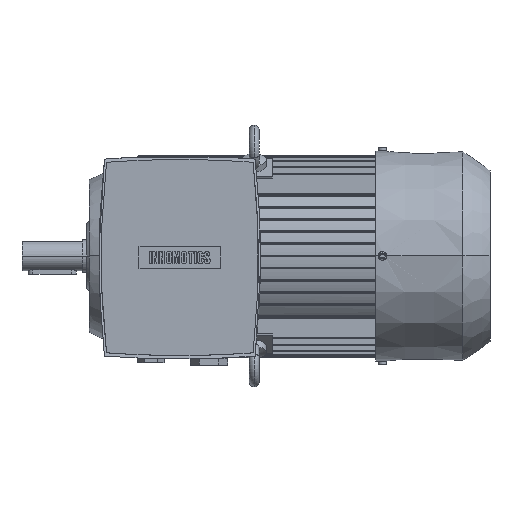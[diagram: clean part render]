
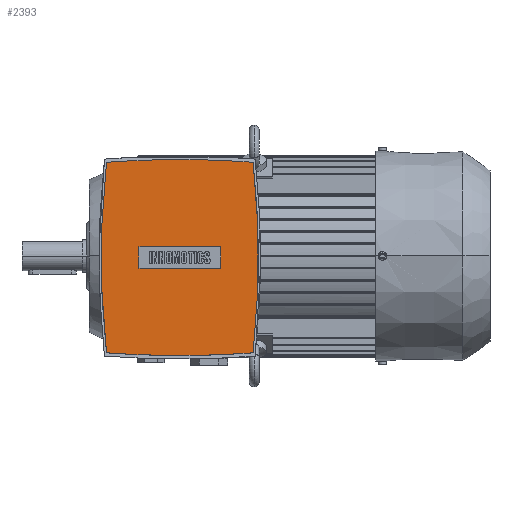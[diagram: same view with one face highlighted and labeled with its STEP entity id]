
A CAD part, top view. The second image highlights one B-rep face of the part: STEP entity #2393.
In plain terms, the highlighted planar face has unit normal (0, 0, 1).
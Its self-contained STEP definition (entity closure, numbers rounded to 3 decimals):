
#2393=ADVANCED_FACE('',(#5173,#5174),#5175,.T.);
#5173=FACE_BOUND('',#8347,.T.);
#5174=FACE_OUTER_BOUND('',#8348,.T.);
#5175=PLANE('',#8349);
#8347=EDGE_LOOP('',(#15779,#15780,#15781,#15782));
#8348=EDGE_LOOP('',(#15783,#15784,#15785,#15786,#15787,#15788));
#8349=AXIS2_PLACEMENT_3D('',#15789,#15790,#15791);
#15779=ORIENTED_EDGE('',*,*,#22115,.T.);
#15780=ORIENTED_EDGE('',*,*,#22119,.T.);
#15781=ORIENTED_EDGE('',*,*,#22122,.T.);
#15782=ORIENTED_EDGE('',*,*,#22124,.T.);
#15783=ORIENTED_EDGE('',*,*,#22192,.T.);
#15784=ORIENTED_EDGE('',*,*,#22183,.T.);
#15785=ORIENTED_EDGE('',*,*,#19932,.T.);
#15786=ORIENTED_EDGE('',*,*,#22179,.T.);
#15787=ORIENTED_EDGE('',*,*,#19917,.T.);
#15788=ORIENTED_EDGE('',*,*,#22190,.T.);
#15789=CARTESIAN_POINT('',(46.0,-1.5,188.0));
#15790=DIRECTION('',(0.0,0.0,1.0));
#15791=DIRECTION('',(0.0,-1.0,0.0));
#19917=EDGE_CURVE('',#24212,#24209,#24213,.T.);
#19932=EDGE_CURVE('',#24234,#24238,#24240,.T.);
#22115=EDGE_CURVE('',#27511,#27509,#27512,.T.);
#22119=EDGE_CURVE('',#27509,#27515,#27517,.T.);
#22122=EDGE_CURVE('',#27515,#27519,#27521,.T.);
#22124=EDGE_CURVE('',#27519,#27511,#27523,.T.);
#22179=EDGE_CURVE('',#24238,#24212,#27600,.T.);
#22183=EDGE_CURVE('',#27604,#24234,#27605,.T.);
#22190=EDGE_CURVE('',#24209,#27612,#27614,.T.);
#22192=EDGE_CURVE('',#27612,#27604,#27616,.T.);
#24209=VERTEX_POINT('',#31556);
#24212=VERTEX_POINT('',#31560);
#24213=CIRCLE('',#31561,828.12);
#24234=VERTEX_POINT('',#31608);
#24238=VERTEX_POINT('',#31613);
#24240=CIRCLE('',#31616,828.12);
#27509=VERTEX_POINT('',#37401);
#27511=VERTEX_POINT('',#37404);
#27512=LINE('',#37405,#37406);
#27515=VERTEX_POINT('',#37410);
#27517=LINE('',#37413,#37414);
#27519=VERTEX_POINT('',#37416);
#27521=LINE('',#37419,#37420);
#27523=LINE('',#37422,#37423);
#27600=CIRCLE('',#37538,717.2);
#27604=VERTEX_POINT('',#37542);
#27605=CIRCLE('',#37543,828.12);
#27612=VERTEX_POINT('',#37552);
#27614=CIRCLE('',#37555,828.12);
#27616=CIRCLE('',#37557,717.2);
#31556=CARTESIAN_POINT('',(46.,79.5,188.0));
#31560=CARTESIAN_POINT('',(106.661,77.275,188.0));
#31561=AXIS2_PLACEMENT_3D('',#40945,#40946,#40947);
#31608=CARTESIAN_POINT('',(46.,-82.5,188.0));
#31613=CARTESIAN_POINT('',(106.661,-80.275,188.0));
#31616=AXIS2_PLACEMENT_3D('',#40969,#40970,#40971);
#37401=CARTESIAN_POINT('',(12.25,-10.55,188.0));
#37404=CARTESIAN_POINT('',(79.75,-10.55,188.0));
#37405=CARTESIAN_POINT('',(46.0,-10.55,188.0));
#37406=VECTOR('',#43448,1.0);
#37410=CARTESIAN_POINT('',(12.25,7.55,188.0));
#37413=CARTESIAN_POINT('',(12.25,-1.5,188.0));
#37414=VECTOR('',#43451,1.0);
#37416=CARTESIAN_POINT('',(79.75,7.55,188.0));
#37419=CARTESIAN_POINT('',(46.0,7.55,188.0));
#37420=VECTOR('',#43453,1.0);
#37422=CARTESIAN_POINT('',(79.75,-1.5,188.0));
#37423=VECTOR('',#43454,1.0);
#37538=AXIS2_PLACEMENT_3D('',#43535,#43536,#43537);
#37542=CARTESIAN_POINT('',(-14.661,-80.275,188.0));
#37543=AXIS2_PLACEMENT_3D('',#43541,#43542,#43543);
#37552=CARTESIAN_POINT('',(-14.661,77.275,188.0));
#37555=AXIS2_PLACEMENT_3D('',#43550,#43551,#43552);
#37557=AXIS2_PLACEMENT_3D('',#43553,#43554,#43555);
#40945=CARTESIAN_POINT('',(46.0,-748.62,188.0));
#40946=DIRECTION('',(0.0,-0.0,1.0));
#40947=DIRECTION('',(0.0,1.0,0.0));
#40969=CARTESIAN_POINT('',(46.0,745.62,188.0));
#40970=DIRECTION('',(0.0,-0.0,1.0));
#40971=DIRECTION('',(0.0,1.0,0.0));
#43448=DIRECTION('',(-1.0,0.0,0.0));
#43451=DIRECTION('',(0.0,1.0,0.0));
#43453=DIRECTION('',(1.0,0.0,-0.0));
#43454=DIRECTION('',(0.0,-1.0,0.0));
#43535=CARTESIAN_POINT('',(-606.2,-1.5,188.0));
#43536=DIRECTION('',(0.0,-0.0,1.0));
#43537=DIRECTION('',(0.0,1.0,0.0));
#43541=CARTESIAN_POINT('',(46.0,745.62,188.0));
#43542=DIRECTION('',(0.0,-0.0,1.0));
#43543=DIRECTION('',(0.0,1.0,0.0));
#43550=CARTESIAN_POINT('',(46.0,-748.62,188.0));
#43551=DIRECTION('',(0.0,-0.0,1.0));
#43552=DIRECTION('',(0.0,1.0,0.0));
#43553=CARTESIAN_POINT('',(698.2,-1.5,188.0));
#43554=DIRECTION('',(0.0,-0.0,1.0));
#43555=DIRECTION('',(0.0,1.0,0.0));
